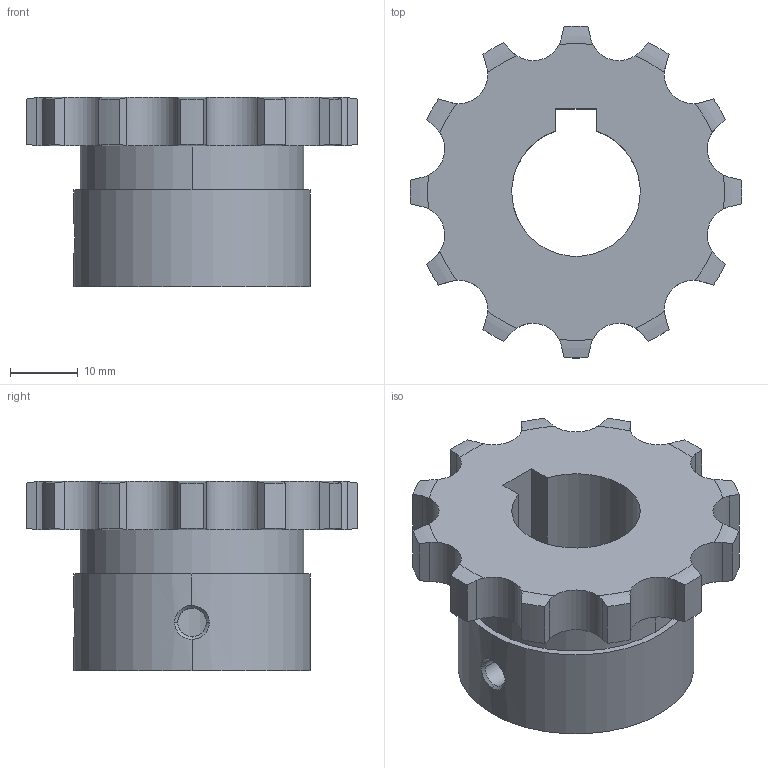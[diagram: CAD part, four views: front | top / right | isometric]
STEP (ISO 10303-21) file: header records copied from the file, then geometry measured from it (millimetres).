
FILE_DESCRIPTION((''),'2;1');
FILE_NAME('510-201-1912_PRT','2021-02-13T',('Brieden'),('Brieden'),'PRO/ENGINEER BY PARAMETRIC TECHNOLOGY CORPORATION, 2010160','PRO/ENGINEER BY PARAMETRIC TECHNOLOGY CORPORATION, 2010160','');
FILE_SCHEMA(('AUTOMOTIVE_DESIGN { 1 0 10303 214 1 1 1 1 }'));
Length unit declared in the file: millimetre
Products named in the file (1): 510-201-1912_PRT
Bounding box: 49.06 x 49.06 x 28 mm (x, y, z)
Volume: 21869.8 mm3; surface area: 8303.5 mm2
Topology: 1 solids, 1 shells, 94 faces, 267 edges, 176 vertices
Faces by surface type: cylinder 57, torus 24, plane 7, bspline 6
Entity records: 4626 total; most frequent: CARTESIAN_POINT 1454, ORIENTED_EDGE 534, DIRECTION 417, PRESENTATION_STYLE_ASSIGNMENT 268, STYLED_ITEM 268, CURVE_STYLE 267, EDGE_CURVE 267, VERTEX_POINT 176
